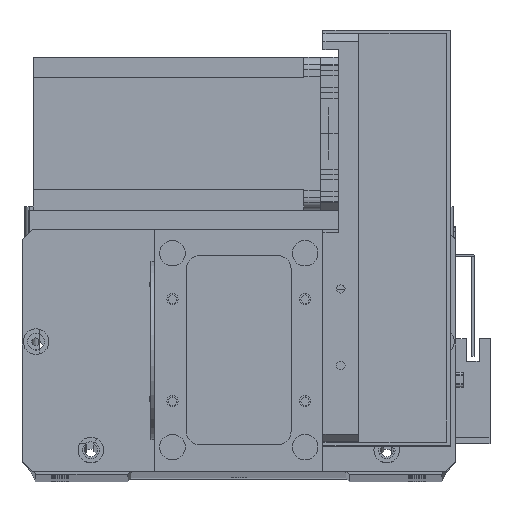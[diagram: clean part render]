
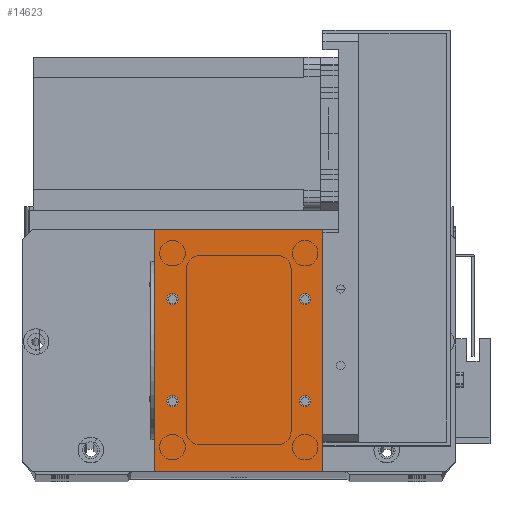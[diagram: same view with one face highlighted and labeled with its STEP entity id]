
A CAD part, top view. The second image highlights one B-rep face of the part: STEP entity #14623.
In plain terms, the highlighted planar face has unit normal (0, 0, 1).
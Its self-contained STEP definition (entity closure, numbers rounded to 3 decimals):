
#57 = CARTESIAN_POINT ( 'NONE',  ( 66., 0., 2. ) ) ;
#113 = EDGE_CURVE ( 'NONE', #24690, #27968, #20054, .T. ) ;
#637 = VERTEX_POINT ( 'NONE', #3697 ) ;
#1416 = FACE_BOUND ( 'NONE', #4339, .T. ) ;
#2034 = CARTESIAN_POINT ( 'NONE',  ( 61.25, 27.5, 2. ) ) ;
#2047 = DIRECTION ( 'NONE',  ( 0., 0., 1. ) ) ;
#2213 = FACE_BOUND ( 'NONE', #18069, .T. ) ;
#2993 = FACE_BOUND ( 'NONE', #4744, .T. ) ;
#3080 = CARTESIAN_POINT ( 'NONE',  ( 0., 0., 2. ) ) ;
#3352 = ORIENTED_EDGE ( 'NONE', *, *, #22397, .F. ) ;
#3697 = CARTESIAN_POINT ( 'NONE',  ( 9.25, 27.5, 2. ) ) ;
#3881 = AXIS2_PLACEMENT_3D ( 'NONE', #29771, #14675, #32279 ) ;
#4102 = CIRCLE ( 'NONE', #28832, 2.25 ) ;
#4110 = EDGE_CURVE ( 'NONE', #10163, #20116, #11976, .T. ) ;
#4288 = AXIS2_PLACEMENT_3D ( 'NONE', #19439, #24407, #6852 ) ;
#4339 = EDGE_LOOP ( 'NONE', ( #17909, #21509 ) ) ;
#4388 = CARTESIAN_POINT ( 'NONE',  ( 7., 27.5, 2. ) ) ;
#4671 = EDGE_CURVE ( 'NONE', #21543, #24690, #26052, .T. ) ;
#4709 = AXIS2_PLACEMENT_3D ( 'NONE', #25104, #10001, #27659 ) ;
#4744 = EDGE_LOOP ( 'NONE', ( #27315, #24418 ) ) ;
#5023 = CIRCLE ( 'NONE', #31514, 2.25 ) ;
#6489 = EDGE_CURVE ( 'NONE', #11245, #14181, #5023, .T. ) ;
#6852 = DIRECTION ( 'NONE',  ( -1., 0., 0. ) ) ;
#6930 = DIRECTION ( 'NONE',  ( 1., 0., 0. ) ) ;
#7112 = CARTESIAN_POINT ( 'NONE',  ( 59., 27.5, 2. ) ) ;
#8230 = ORIENTED_EDGE ( 'NONE', *, *, #113, .T. ) ;
#8236 = DIRECTION ( 'NONE',  ( 0., 0., 1. ) ) ;
#8557 = EDGE_CURVE ( 'NONE', #32708, #31131, #4102, .T. ) ;
#8792 = CIRCLE ( 'NONE', #3881, 2.25 ) ;
#8807 = EDGE_CURVE ( 'NONE', #31131, #32708, #22266, .T. ) ;
#8978 = VERTEX_POINT ( 'NONE', #17704 ) ;
#9178 = CARTESIAN_POINT ( 'NONE',  ( 59., 67.5, 2. ) ) ;
#9271 = EDGE_CURVE ( 'NONE', #20116, #10163, #28944, .T. ) ;
#9645 = DIRECTION ( 'NONE',  ( 1., 0., 0. ) ) ;
#9685 = EDGE_CURVE ( 'NONE', #27968, #21514, #11961, .T. ) ;
#10001 = DIRECTION ( 'NONE',  ( 0., 0., 1. ) ) ;
#10113 = CARTESIAN_POINT ( 'NONE',  ( 56.75, 27.5, 2. ) ) ;
#10163 = VERTEX_POINT ( 'NONE', #28107 ) ;
#10662 = CARTESIAN_POINT ( 'NONE',  ( 0., 95., 2. ) ) ;
#10809 = AXIS2_PLACEMENT_3D ( 'NONE', #32560, #32530, #32464 ) ;
#11245 = VERTEX_POINT ( 'NONE', #2034 ) ;
#11557 = CIRCLE ( 'NONE', #13291, 2.25 ) ;
#11711 = DIRECTION ( 'NONE',  ( 1., 0., 0. ) ) ;
#11961 = LINE ( 'NONE', #3080, #30509 ) ;
#11976 = CIRCLE ( 'NONE', #10809, 2.25 ) ;
#11998 = CARTESIAN_POINT ( 'NONE',  ( 66., 0., 2. ) ) ;
#12257 = EDGE_CURVE ( 'NONE', #21514, #21543, #20914, .T. ) ;
#12439 = CARTESIAN_POINT ( 'NONE',  ( 0., 95., 2. ) ) ;
#12509 = DIRECTION ( 'NONE',  ( -1., 0., 0. ) ) ;
#12830 = ORIENTED_EDGE ( 'NONE', *, *, #9685, .T. ) ;
#13291 = AXIS2_PLACEMENT_3D ( 'NONE', #4388, #22060, #6930 ) ;
#13368 = VECTOR ( 'NONE', #18771, 1000. ) ;
#14181 = VERTEX_POINT ( 'NONE', #10113 ) ;
#14217 = VECTOR ( 'NONE', #29757, 1000. ) ;
#14623 = ADVANCED_FACE ( 'NONE', ( #2993, #1416, #21529, #2213, #14852 ), #16940, .F. ) ;
#14675 = DIRECTION ( 'NONE',  ( 0., 0., 1. ) ) ;
#14852 = FACE_OUTER_BOUND ( 'NONE', #19225, .T. ) ;
#15733 = ORIENTED_EDGE ( 'NONE', *, *, #6489, .F. ) ;
#16663 = EDGE_LOOP ( 'NONE', ( #15733, #23245 ) ) ;
#16940 = PLANE ( 'NONE',  #4288 ) ;
#17158 = CARTESIAN_POINT ( 'NONE',  ( 7., 67.5, 2. ) ) ;
#17704 = CARTESIAN_POINT ( 'NONE',  ( 4.75, 27.5, 2. ) ) ;
#17909 = ORIENTED_EDGE ( 'NONE', *, *, #4110, .F. ) ;
#18069 = EDGE_LOOP ( 'NONE', ( #18939, #3352 ) ) ;
#18771 = DIRECTION ( 'NONE',  ( 0., -1., 0. ) ) ;
#18939 = ORIENTED_EDGE ( 'NONE', *, *, #25712, .F. ) ;
#19225 = EDGE_LOOP ( 'NONE', ( #8230, #12830, #31757, #29870 ) ) ;
#19303 = VECTOR ( 'NONE', #12509, 1000. ) ;
#19439 = CARTESIAN_POINT ( 'NONE',  ( 0., 0., 2. ) ) ;
#19670 = DIRECTION ( 'NONE',  ( 1., 0., 0. ) ) ;
#19763 = CARTESIAN_POINT ( 'NONE',  ( 56.75, 67.5, 2. ) ) ;
#19964 = CARTESIAN_POINT ( 'NONE',  ( 0., 0., 2. ) ) ;
#20054 = LINE ( 'NONE', #19964, #13368 ) ;
#20116 = VERTEX_POINT ( 'NONE', #19763 ) ;
#20170 = CARTESIAN_POINT ( 'NONE',  ( 4.75, 67.5, 2. ) ) ;
#20914 = LINE ( 'NONE', #11998, #14217 ) ;
#21467 = EDGE_CURVE ( 'NONE', #14181, #11245, #31348, .T. ) ;
#21509 = ORIENTED_EDGE ( 'NONE', *, *, #9271, .F. ) ;
#21514 = VERTEX_POINT ( 'NONE', #57 ) ;
#21529 = FACE_BOUND ( 'NONE', #16663, .T. ) ;
#21543 = VERTEX_POINT ( 'NONE', #22890 ) ;
#22060 = DIRECTION ( 'NONE',  ( 0., 0., 1. ) ) ;
#22266 = CIRCLE ( 'NONE', #31561, 2.25 ) ;
#22397 = EDGE_CURVE ( 'NONE', #8978, #637, #8792, .T. ) ;
#22890 = CARTESIAN_POINT ( 'NONE',  ( 66., 95., 2. ) ) ;
#23245 = ORIENTED_EDGE ( 'NONE', *, *, #21467, .F. ) ;
#23338 = CARTESIAN_POINT ( 'NONE',  ( 7., 67.5, 2. ) ) ;
#23557 = AXIS2_PLACEMENT_3D ( 'NONE', #9178, #26860, #11711 ) ;
#24407 = DIRECTION ( 'NONE',  ( 0., 0., -1. ) ) ;
#24418 = ORIENTED_EDGE ( 'NONE', *, *, #8807, .F. ) ;
#24517 = CARTESIAN_POINT ( 'NONE',  ( 0., 0., 2. ) ) ;
#24690 = VERTEX_POINT ( 'NONE', #10662 ) ;
#24760 = DIRECTION ( 'NONE',  ( 0., 0., 1. ) ) ;
#25104 = CARTESIAN_POINT ( 'NONE',  ( 59., 27.5, 2. ) ) ;
#25712 = EDGE_CURVE ( 'NONE', #637, #8978, #11557, .T. ) ;
#25889 = DIRECTION ( 'NONE',  ( 1., 0., 0. ) ) ;
#26052 = LINE ( 'NONE', #12439, #19303 ) ;
#26860 = DIRECTION ( 'NONE',  ( 0., 0., 1. ) ) ;
#27315 = ORIENTED_EDGE ( 'NONE', *, *, #8557, .F. ) ;
#27659 = DIRECTION ( 'NONE',  ( 1., 0., 0. ) ) ;
#27968 = VERTEX_POINT ( 'NONE', #24517 ) ;
#28107 = CARTESIAN_POINT ( 'NONE',  ( 61.25, 67.5, 2. ) ) ;
#28464 = DIRECTION ( 'NONE',  ( 1., 0., 0. ) ) ;
#28832 = AXIS2_PLACEMENT_3D ( 'NONE', #23338, #8236, #25889 ) ;
#28944 = CIRCLE ( 'NONE', #23557, 2.25 ) ;
#29757 = DIRECTION ( 'NONE',  ( 0., 1., 0. ) ) ;
#29771 = CARTESIAN_POINT ( 'NONE',  ( 7., 27.5, 2. ) ) ;
#29870 = ORIENTED_EDGE ( 'NONE', *, *, #4671, .T. ) ;
#30509 = VECTOR ( 'NONE', #28464, 1000. ) ;
#31131 = VERTEX_POINT ( 'NONE', #20170 ) ;
#31348 = CIRCLE ( 'NONE', #4709, 2.25 ) ;
#31514 = AXIS2_PLACEMENT_3D ( 'NONE', #7112, #24760, #9645 ) ;
#31561 = AXIS2_PLACEMENT_3D ( 'NONE', #17158, #2047, #19670 ) ;
#31757 = ORIENTED_EDGE ( 'NONE', *, *, #12257, .T. ) ;
#32180 = CARTESIAN_POINT ( 'NONE',  ( 9.25, 67.5, 2. ) ) ;
#32279 = DIRECTION ( 'NONE',  ( 1., 0., 0. ) ) ;
#32464 = DIRECTION ( 'NONE',  ( 1., 0., 0. ) ) ;
#32530 = DIRECTION ( 'NONE',  ( 0., 0., 1. ) ) ;
#32560 = CARTESIAN_POINT ( 'NONE',  ( 59., 67.5, 2. ) ) ;
#32708 = VERTEX_POINT ( 'NONE', #32180 ) ;
